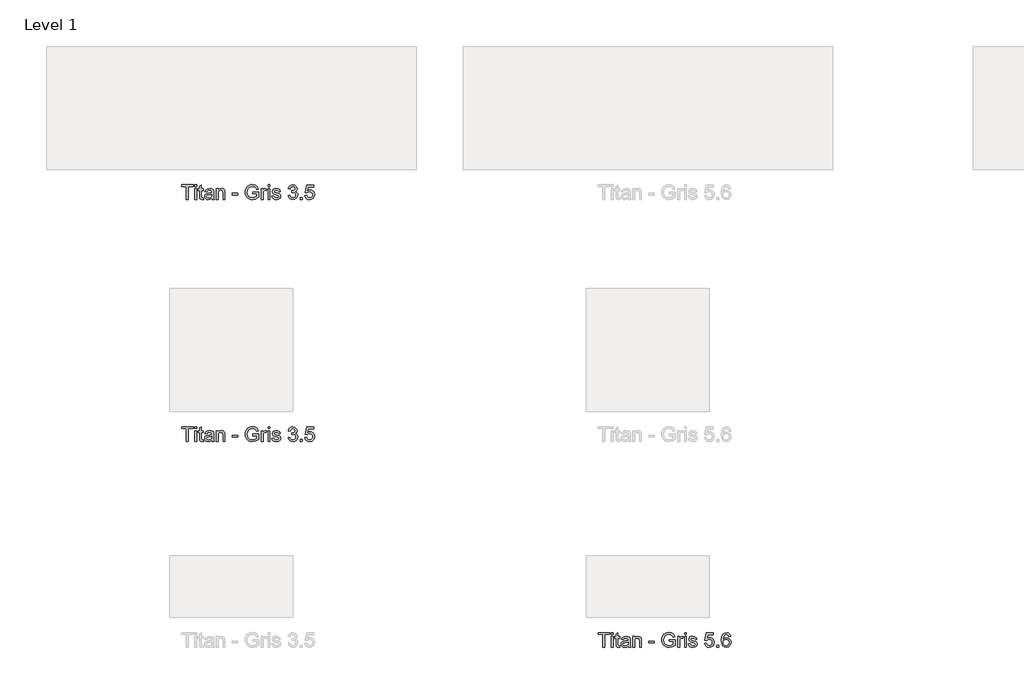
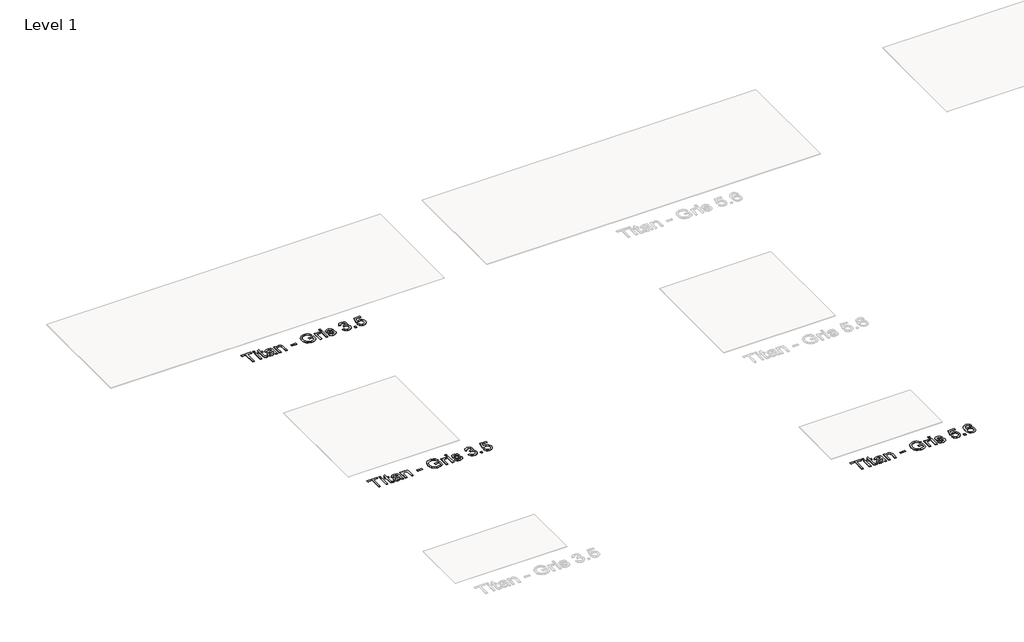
# One storey, part 3 of 80: 3 proxies.
"""IFC4 building model written with IfcOpenShell, lengths in millimetres."""

from ifc_helpers import new_model, si_unit, origin, origin_with_axes, place, context, project, spatial, polyline, outline, extrude, element, save

model = new_model("IFC4")

# Units and contexts
model_context = context("Model", 3, world=origin())
ifc_project = project(units=[si_unit("LENGTHUNIT", "METRE", prefix="MILLI")], contexts=[model_context])

# Site, building, storey
site = spatial("IfcSite", under=ifc_project)
building = spatial("IfcBuilding", under=site)
storey = spatial("IfcBuildingStorey", under=building, Name="Level 1", Elevation=0.0)

# Proxies
placement = place(None, origin())
element("IfcBuildingElementProxy", 1, Name="24\" Arial", ObjectType="24\" Arial", at=placement, inside=storey, context=model_context, shape_type="SweptSolid", body=[
    extrude(outline(polyline([(-23010.153031, -20307.8922787), (-23010.153031, -20204.5076633), (-23048.9222617, -20204.5076633), (-23048.9222617, -20189.7384325), (-22956.6145694, -20189.7384325), (-22956.6145694, -20204.5076633), (-22995.3838002, -20204.5076633), (-22995.3838002, -20307.8922787), (-23010.153031, -20307.8922787)])), origin_with_axes(), (0.0, 0.0, 1.0), 2.0),
    extrude(outline(polyline([(-22941.8453387, -20307.8922787), (-22941.8453387, -20221.1230479), (-22927.0761079, -20221.1230479), (-22927.0761079, -20307.8922787), (-22941.8453387, -20307.8922787)])), origin_with_axes(), (0.0, 0.0, 1.0), 2.0),
    extrude(outline(polyline([(-22941.8453387, -20204.5076633), (-22941.8453387, -20189.7384325), (-22927.0761079, -20189.7384325), (-22927.0761079, -20204.5076633), (-22941.8453387, -20204.5076633)])), origin_with_axes(), (0.0, 0.0, 1.0), 2.0),
    extrude(outline(polyline([(-22873.5376464, -20295.574971), (-22871.6914925, -20308.324971), (-22882.7395694, -20309.7384325), (-22895.1145694, -20307.2865094), (-22901.2876464, -20300.8538171), (-22903.0761079, -20284.0942017), (-22903.0761079, -20235.8922787), (-22914.153031, -20235.8922787), (-22914.153031, -20221.1230479), (-22903.0761079, -20221.1230479), (-22903.0761079, -20200.0365094), (-22888.3068771, -20191.3538171), (-22888.3068771, -20221.1230479), (-22873.5376464, -20221.1230479), (-22873.5376464, -20235.8922787), (-22888.3068771, -20235.8922787), (-22888.3068771, -20283.6615094), (-22887.528031, -20291.276894), (-22885.0039925, -20293.9740094), (-22879.9703387, -20294.9692017), (-22873.5376464, -20295.574971)])), origin_with_axes(), (0.0, 0.0, 1.0), 2.0),
    extrude(outline(polyline([(-22803.3838002, -20296.8153556), (-22817.7059156, -20306.824971), (-22833.528031, -20309.7384325), (-22845.8705791, -20307.9860287), (-22854.9751464, -20302.7288171), (-22860.5893291, -20294.745644), (-22862.4607233, -20284.8153556), (-22859.6338002, -20273.1326633), (-22852.2059156, -20264.651894), (-22841.8645694, -20259.8057402), (-22829.0857233, -20257.5845863), (-22803.4703387, -20252.5076633), (-22803.3838002, -20249.2192017), (-22807.4511079, -20238.3153556), (-22823.778031, -20234.0461248), (-22838.7203387, -20236.887471), (-22845.8453387, -20246.9692017), (-22860.6145694, -20245.1230479), (-22854.2251464, -20230.699971), (-22841.3597617, -20222.2480479), (-22821.8741848, -20219.276894), (-22803.9751464, -20221.901894), (-22793.8645694, -20228.4932402), (-22789.3357233, -20238.5172787), (-22788.6145694, -20251.4403556), (-22788.6145694, -20269.8153556), (-22787.8645694, -20295.4740094), (-22784.9222617, -20307.8922787), (-22799.6914925, -20307.8922787), (-22803.3838002, -20296.8153556)]), holes=[polyline([(-22803.3838002, -20267.276894), (-22827.2107233, -20271.8057402), (-22839.9174541, -20274.199971), (-22845.6722617, -20278.0942017), (-22847.6914925, -20283.776894), (-22843.2924541, -20291.7672787), (-22830.3838002, -20294.9692017), (-22815.4414925, -20291.4355479), (-22805.8068771, -20282.8826633), (-22803.4703387, -20271.4595863), (-22803.3838002, -20267.276894)])]), origin_with_axes(), (0.0, 0.0, 1.0), 2.0),
    extrude(outline(polyline([(-22768.3068771, -20307.8922787), (-22768.3068771, -20221.1230479), (-22753.5376464, -20221.1230479), (-22753.5376464, -20233.2384325), (-22742.2443771, -20222.7672787), (-22726.8261079, -20219.276894), (-22712.8789925, -20222.089394), (-22703.3597617, -20229.4740094), (-22698.9318771, -20240.3345863), (-22698.153031, -20254.6134325), (-22698.153031, -20307.8922787), (-22712.9222617, -20307.8922787), (-22712.9222617, -20256.6038171), (-22714.6241848, -20243.5365094), (-22720.6386079, -20236.6278556), (-22730.778031, -20234.0461248), (-22746.8020694, -20239.8442017), (-22751.8537521, -20248.245644), (-22753.5376464, -20261.8538171), (-22753.5376464, -20307.8922787), (-22768.3068771, -20307.8922787)])), origin_with_axes(), (0.0, 0.0, 1.0), 2.0),
    extrude(outline(polyline([(-22639.0761079, -20272.8153556), (-22639.0761079, -20258.0461248), (-22592.9222617, -20258.0461248), (-22592.9222617, -20272.8153556), (-22639.0761079, -20272.8153556)])), origin_with_axes(), (0.0, 0.0, 1.0), 2.0),
    extrude(outline(polyline([(-22472.9222617, -20261.7384325), (-22472.9222617, -20246.9692017), (-22424.9222617, -20246.9692017), (-22424.9222617, -20291.1326633), (-22448.6193771, -20305.0653556), (-22473.6722617, -20309.7384325), (-22490.2407714, -20307.8814613), (-22505.215531, -20302.3105479), (-22517.6554348, -20293.2204037), (-22526.6193771, -20280.8057402), (-22532.0388483, -20265.9139133), (-22533.8453387, -20249.3922787), (-22532.0460598, -20232.7516537), (-22526.6482233, -20217.2720863), (-22517.8753867, -20204.2877113), (-22505.9511079, -20195.1326633), (-22491.4270694, -20189.7023748), (-22474.8549541, -20187.8922787), (-22451.7491848, -20192.089394), (-22435.5520694, -20203.7720863), (-22426.6241848, -20223.3153556), (-22440.2395694, -20227.151894), (-22446.9751464, -20213.4932402), (-22458.4847617, -20205.6182402), (-22475.0857233, -20202.6615094), (-22493.9943771, -20205.8490094), (-22506.8597617, -20214.214394), (-22514.4607233, -20225.5942017), (-22519.0761079, -20248.7865094), (-22517.6878867, -20262.9103075), (-22513.5232233, -20274.5317017), (-22506.7083194, -20283.5677594), (-22497.3693771, -20289.9355479), (-22474.8549541, -20294.9692017), (-22454.6482233, -20291.1759325), (-22439.6914925, -20283.0845863), (-22439.6914925, -20261.7384325), (-22472.9222617, -20261.7384325)])), origin_with_axes(), (0.0, 0.0, 1.0), 2.0),
    extrude(outline(polyline([(-22402.7684156, -20307.8922787), (-22402.7684156, -20221.1230479), (-22389.8453387, -20221.1230479), (-22389.8453387, -20233.9595863), (-22380.6722617, -20222.1326633), (-22371.4414925, -20219.276894), (-22356.6145694, -20223.8345863), (-22361.5472617, -20237.074971), (-22371.9318771, -20234.0461248), (-22380.2828387, -20236.9595863), (-22385.6049541, -20245.0365094), (-22387.9991848, -20262.2865094), (-22387.9991848, -20307.8922787), (-22402.7684156, -20307.8922787)])), origin_with_axes(), (0.0, 0.0, 1.0), 2.0),
    extrude(outline(polyline([(-22347.3838002, -20307.8922787), (-22347.3838002, -20221.1230479), (-22332.6145694, -20221.1230479), (-22332.6145694, -20307.8922787), (-22347.3838002, -20307.8922787)])), origin_with_axes(), (0.0, 0.0, 1.0), 2.0),
    extrude(outline(polyline([(-22347.3838002, -20204.5076633), (-22347.3838002, -20189.7384325), (-22332.6145694, -20189.7384325), (-22332.6145694, -20204.5076633), (-22347.3838002, -20204.5076633)])), origin_with_axes(), (0.0, 0.0, 1.0), 2.0),
    extrude(outline(polyline([(-22315.9991848, -20282.0461248), (-22301.2299541, -20280.199971), (-22294.3934156, -20291.1615094), (-22278.7299541, -20294.9692017), (-22263.6722617, -20291.4788171), (-22258.7684156, -20283.2865094), (-22263.7011079, -20276.651894), (-22278.903031, -20272.4403556), (-22301.1434156, -20265.214394), (-22310.8501464, -20256.776894), (-22314.153031, -20244.8634325), (-22311.4991848, -20233.8586248), (-22304.2588002, -20225.449971), (-22294.8693771, -20221.0797787), (-22282.1626464, -20219.276894), (-22264.1914925, -20222.1759325), (-22252.7684156, -20230.0220863), (-22247.6914925, -20243.276894), (-22262.4607233, -20245.1230479), (-22268.0136079, -20236.9740094), (-22281.0088002, -20234.0461248), (-22295.1434156, -20236.8442017), (-22299.3838002, -20243.3634325), (-22297.6241848, -20247.6615094), (-22292.1145694, -20250.9211248), (-22279.3934156, -20254.0653556), (-22257.715531, -20261.0172787), (-22247.6482233, -20268.8922787), (-22243.9991848, -20281.7288171), (-22248.2828387, -20295.8634325), (-22260.6434156, -20306.1182402), (-22278.9318771, -20309.7384325), (-22293.8237041, -20307.9932402), (-22304.6914925, -20302.7576633), (-22311.9463002, -20294.089394), (-22315.9991848, -20282.0461248)])), origin_with_axes(), (0.0, 0.0, 1.0), 2.0),
    extrude(outline(polyline([(-22184.9222617, -20276.5076633), (-22170.153031, -20274.6615094), (-22162.7107233, -20289.8778556), (-22147.278031, -20294.9692017), (-22136.6914925, -20293.198769), (-22128.7588002, -20287.887471), (-22123.8044733, -20279.6482883), (-22122.153031, -20269.0942017), (-22123.699906, -20259.1567017), (-22128.340531, -20251.5557402), (-22136.1109637, -20246.731221), (-22147.0472617, -20245.1230479), (-22160.0136079, -20247.6903556), (-22168.3068771, -20254.3538171), (-22183.0761079, -20252.5076633), (-22170.153031, -20191.5845863), (-22112.9222617, -20191.5845863), (-22112.9222617, -20206.3538171), (-22158.2107233, -20206.3538171), (-22164.528031, -20238.8922787), (-22153.9775502, -20232.4884325), (-22142.9222617, -20230.3538171), (-22129.1229829, -20233.0004517), (-22117.6674541, -20240.9403556), (-22109.9547137, -20253.0413171), (-22107.3838002, -20268.1711248), (-22109.6987041, -20282.9403556), (-22116.6434156, -20295.574971), (-22129.9414925, -20306.1975671), (-22147.3357233, -20309.7384325), (-22161.8417329, -20307.4631921), (-22173.3982233, -20300.637471), (-22181.3200983, -20290.0545383), (-22184.9222617, -20276.5076633)])), origin_with_axes(), (0.0, 0.0, 1.0), 2.0),
    extrude(outline(polyline([(-22087.0761079, -20307.8922787), (-22087.0761079, -20293.1230479), (-22072.3068771, -20293.1230479), (-22072.3068771, -20307.8922787), (-22087.0761079, -20307.8922787)])), origin_with_axes(), (0.0, 0.0, 1.0), 2.0),
    extrude(outline(polyline([(-21972.6145694, -20221.1230479), (-21987.3838002, -20222.9692017), (-21992.9799541, -20210.651894), (-21999.6794733, -20206.043721), (-22007.778031, -20204.5076633), (-22021.1049541, -20208.0845863), (-22031.1866848, -20221.512471), (-22035.3838002, -20247.8345863), (-22022.3597617, -20236.0509325), (-22006.2203387, -20232.199971), (-21992.5761079, -20234.8321825), (-21981.1241848, -20242.7288171), (-21973.3573579, -20254.793721), (-21970.7684156, -20269.9307402), (-21975.6434156, -20290.3105479), (-21989.0568771, -20304.7336248), (-22008.4126464, -20309.7384325), (-22025.168656, -20306.4211248), (-22038.5136079, -20296.4692017), (-22047.2431752, -20278.901894), (-22050.153031, -20252.7384325), (-22046.9222617, -20223.3225671), (-22037.2299541, -20203.2095863), (-22023.996781, -20193.106221), (-22006.8549541, -20189.7384325), (-21993.8958194, -20191.8225671), (-21983.5184156, -20198.074971), (-21976.2491848, -20208.0052594), (-21972.6145694, -20221.1230479)]), holes=[polyline([(-22035.3838002, -20269.699971), (-22031.965531, -20282.4932402), (-22022.8789925, -20291.7817017), (-22009.5664925, -20294.9692017), (-21999.8200983, -20293.3177594), (-21992.1578387, -20288.3634325), (-21987.1926944, -20280.574971), (-21985.5376464, -20270.4211248), (-21987.1710598, -20260.6747306), (-21992.0713002, -20253.2432402), (-21999.8633675, -20248.5377113), (-22010.1722617, -20246.9692017), (-22019.9042329, -20248.5377113), (-22028.0424541, -20253.2432402), (-22033.5484637, -20260.4944421), (-22035.3838002, -20269.699971)])]), origin_with_axes(), (0.0, 0.0, 1.0), 2.0),
])
element("IfcBuildingElementProxy", 2, Name="24\" Arial", ObjectType="24\" Arial", at=placement, inside=storey, context=model_context, shape_type="SweptSolid", body=[
    extrude(outline(polyline([(-26390.153031, -16671.3584739), (-26390.153031, -16567.9738585), (-26428.9222617, -16567.9738585), (-26428.9222617, -16553.2046277), (-26336.6145694, -16553.2046277), (-26336.6145694, -16567.9738585), (-26375.3838002, -16567.9738585), (-26375.3838002, -16671.3584739), (-26390.153031, -16671.3584739)])), origin_with_axes(), (0.0, 0.0, 1.0), 2.0),
    extrude(outline(polyline([(-26321.8453387, -16671.3584739), (-26321.8453387, -16584.5892431), (-26307.0761079, -16584.5892431), (-26307.0761079, -16671.3584739), (-26321.8453387, -16671.3584739)])), origin_with_axes(), (0.0, 0.0, 1.0), 2.0),
    extrude(outline(polyline([(-26321.8453387, -16567.9738585), (-26321.8453387, -16553.2046277), (-26307.0761079, -16553.2046277), (-26307.0761079, -16567.9738585), (-26321.8453387, -16567.9738585)])), origin_with_axes(), (0.0, 0.0, 1.0), 2.0),
    extrude(outline(polyline([(-26253.5376464, -16659.0411662), (-26251.6914925, -16671.7911662), (-26262.7395694, -16673.2046277), (-26275.1145694, -16670.7527046), (-26281.2876464, -16664.3200123), (-26283.0761079, -16647.560397), (-26283.0761079, -16599.3584739), (-26294.153031, -16599.3584739), (-26294.153031, -16584.5892431), (-26283.0761079, -16584.5892431), (-26283.0761079, -16563.5027046), (-26268.3068771, -16554.8200123), (-26268.3068771, -16584.5892431), (-26253.5376464, -16584.5892431), (-26253.5376464, -16599.3584739), (-26268.3068771, -16599.3584739), (-26268.3068771, -16647.1277046), (-26267.528031, -16654.7430893), (-26265.0039925, -16657.4402046), (-26259.9703387, -16658.435397), (-26253.5376464, -16659.0411662)])), origin_with_axes(), (0.0, 0.0, 1.0), 2.0),
    extrude(outline(polyline([(-26183.3838002, -16660.2815508), (-26197.7059156, -16670.2911662), (-26213.528031, -16673.2046277), (-26225.8705791, -16671.4522239), (-26234.9751464, -16666.1950123), (-26240.5893291, -16658.2118393), (-26242.4607233, -16648.2815508), (-26239.6338002, -16636.5988585), (-26232.2059156, -16628.1180893), (-26221.8645694, -16623.2719354), (-26209.0857233, -16621.0507816), (-26183.4703387, -16615.9738585), (-26183.3838002, -16612.685397), (-26187.4511079, -16601.7815508), (-26203.778031, -16597.51232), (-26218.7203387, -16600.3536662), (-26225.8453387, -16610.435397), (-26240.6145694, -16608.5892431), (-26234.2251464, -16594.1661662), (-26221.3597617, -16585.7142431), (-26201.8741848, -16582.7430893), (-26183.9751464, -16585.3680893), (-26173.8645694, -16591.9594354), (-26169.3357233, -16601.9834739), (-26168.6145694, -16614.9065508), (-26168.6145694, -16633.2815508), (-26167.8645694, -16658.9402046), (-26164.9222617, -16671.3584739), (-26179.6914925, -16671.3584739), (-26183.3838002, -16660.2815508)]), holes=[polyline([(-26183.3838002, -16630.7430893), (-26207.2107233, -16635.2719354), (-26219.9174541, -16637.6661662), (-26225.6722617, -16641.560397), (-26227.6914925, -16647.2430893), (-26223.2924541, -16655.2334739), (-26210.3838002, -16658.435397), (-26195.4414925, -16654.9017431), (-26185.8068771, -16646.3488585), (-26183.4703387, -16634.9257816), (-26183.3838002, -16630.7430893)])]), origin_with_axes(), (0.0, 0.0, 1.0), 2.0),
    extrude(outline(polyline([(-26148.3068771, -16671.3584739), (-26148.3068771, -16584.5892431), (-26133.5376464, -16584.5892431), (-26133.5376464, -16596.7046277), (-26122.2443771, -16586.2334739), (-26106.8261079, -16582.7430893), (-26092.8789925, -16585.5555893), (-26083.3597617, -16592.9402046), (-26078.9318771, -16603.8007816), (-26078.153031, -16618.0796277), (-26078.153031, -16671.3584739), (-26092.9222617, -16671.3584739), (-26092.9222617, -16620.0700123), (-26094.6241848, -16607.0027046), (-26100.6386079, -16600.0940508), (-26110.778031, -16597.51232), (-26126.8020694, -16603.310397), (-26131.8537521, -16611.7118393), (-26133.5376464, -16625.3200123), (-26133.5376464, -16671.3584739), (-26148.3068771, -16671.3584739)])), origin_with_axes(), (0.0, 0.0, 1.0), 2.0),
    extrude(outline(polyline([(-26019.0761079, -16636.2815508), (-26019.0761079, -16621.51232), (-25972.9222617, -16621.51232), (-25972.9222617, -16636.2815508), (-26019.0761079, -16636.2815508)])), origin_with_axes(), (0.0, 0.0, 1.0), 2.0),
    extrude(outline(polyline([(-25852.9222617, -16625.2046277), (-25852.9222617, -16610.435397), (-25804.9222617, -16610.435397), (-25804.9222617, -16654.5988585), (-25828.6193771, -16668.5315508), (-25853.6722617, -16673.2046277), (-25870.2407714, -16671.3476566), (-25885.215531, -16665.7767431), (-25897.6554348, -16656.6865989), (-25906.6193771, -16644.2719354), (-25912.0388483, -16629.3801085), (-25913.8453387, -16612.8584739), (-25912.0460598, -16596.2178489), (-25906.6482233, -16580.7382816), (-25897.8753867, -16567.7539066), (-25885.9511079, -16558.5988585), (-25871.4270694, -16553.16857), (-25854.8549541, -16551.3584739), (-25831.7491848, -16555.5555893), (-25815.5520694, -16567.2382816), (-25806.6241848, -16586.7815508), (-25820.2395694, -16590.6180893), (-25826.9751464, -16576.9594354), (-25838.4847617, -16569.0844354), (-25855.0857233, -16566.1277046), (-25873.9943771, -16569.3152046), (-25886.8597617, -16577.6805893), (-25894.4607233, -16589.060397), (-25899.0761079, -16612.2527046), (-25897.6878867, -16626.3765027), (-25893.5232233, -16637.997897), (-25886.7083194, -16647.0339546), (-25877.3693771, -16653.4017431), (-25854.8549541, -16658.435397), (-25834.6482233, -16654.6421277), (-25819.6914925, -16646.5507816), (-25819.6914925, -16625.2046277), (-25852.9222617, -16625.2046277)])), origin_with_axes(), (0.0, 0.0, 1.0), 2.0),
    extrude(outline(polyline([(-25782.7684156, -16671.3584739), (-25782.7684156, -16584.5892431), (-25769.8453387, -16584.5892431), (-25769.8453387, -16597.4257816), (-25760.6722617, -16585.5988585), (-25751.4414925, -16582.7430893), (-25736.6145694, -16587.3007816), (-25741.5472617, -16600.5411662), (-25751.9318771, -16597.51232), (-25760.2828387, -16600.4257816), (-25765.6049541, -16608.5027046), (-25767.9991848, -16625.7527046), (-25767.9991848, -16671.3584739), (-25782.7684156, -16671.3584739)])), origin_with_axes(), (0.0, 0.0, 1.0), 2.0),
    extrude(outline(polyline([(-25727.3838002, -16671.3584739), (-25727.3838002, -16584.5892431), (-25712.6145694, -16584.5892431), (-25712.6145694, -16671.3584739), (-25727.3838002, -16671.3584739)])), origin_with_axes(), (0.0, 0.0, 1.0), 2.0),
    extrude(outline(polyline([(-25727.3838002, -16567.9738585), (-25727.3838002, -16553.2046277), (-25712.6145694, -16553.2046277), (-25712.6145694, -16567.9738585), (-25727.3838002, -16567.9738585)])), origin_with_axes(), (0.0, 0.0, 1.0), 2.0),
    extrude(outline(polyline([(-25695.9991848, -16645.51232), (-25681.2299541, -16643.6661662), (-25674.3934156, -16654.6277046), (-25658.7299541, -16658.435397), (-25643.6722617, -16654.9450123), (-25638.7684156, -16646.7527046), (-25643.7011079, -16640.1180893), (-25658.903031, -16635.9065508), (-25681.1434156, -16628.6805893), (-25690.8501464, -16620.2430893), (-25694.153031, -16608.3296277), (-25691.4991848, -16597.32482), (-25684.2588002, -16588.9161662), (-25674.8693771, -16584.5459739), (-25662.1626464, -16582.7430893), (-25644.1914925, -16585.6421277), (-25632.7684156, -16593.4882816), (-25627.6914925, -16606.7430893), (-25642.4607233, -16608.5892431), (-25648.0136079, -16600.4402046), (-25661.0088002, -16597.51232), (-25675.1434156, -16600.310397), (-25679.3838002, -16606.8296277), (-25677.6241848, -16611.1277046), (-25672.1145694, -16614.38732), (-25659.3934156, -16617.5315508), (-25637.715531, -16624.4834739), (-25627.6482233, -16632.3584739), (-25623.9991848, -16645.1950123), (-25628.2828387, -16659.3296277), (-25640.6434156, -16669.5844354), (-25658.9318771, -16673.2046277), (-25673.8237041, -16671.4594354), (-25684.6914925, -16666.2238585), (-25691.9463002, -16657.5555893), (-25695.9991848, -16645.51232)])), origin_with_axes(), (0.0, 0.0, 1.0), 2.0),
    extrude(outline(polyline([(-25564.9222617, -16639.9738585), (-25550.153031, -16638.1277046), (-25542.0039925, -16653.6757816), (-25526.7588002, -16658.435397), (-25516.6338002, -16656.7983777), (-25508.8164925, -16651.88732), (-25503.8188964, -16644.560397), (-25502.153031, -16635.6757816), (-25503.8044733, -16627.2418873), (-25508.7588002, -16620.4017431), (-25516.2588002, -16615.8692912), (-25525.5472617, -16614.3584739), (-25535.903031, -16615.9738585), (-25534.2588002, -16601.2046277), (-25531.8934156, -16601.3777046), (-25515.1338002, -16597.13732), (-25509.5520694, -16591.7575123), (-25507.6914925, -16584.0988585), (-25513.0857233, -16572.5459739), (-25526.9895694, -16567.9738585), (-25541.0664925, -16572.5892431), (-25548.3068771, -16586.435397), (-25563.0761079, -16584.5892431), (-25558.7275502, -16571.3272239), (-25550.9895694, -16561.4257816), (-25540.403031, -16555.2599162), (-25527.5088002, -16553.2046277), (-25509.6963002, -16557.2575123), (-25497.2347617, -16568.3344354), (-25492.9222617, -16583.2334739), (-25497.0184156, -16596.8488585), (-25509.1338002, -16606.6277046), (-25499.8886079, -16610.3632816), (-25493.0376464, -16616.7238585), (-25488.7972617, -16625.3632816), (-25487.3838002, -16635.935397), (-25490.2107233, -16650.3296277), (-25498.6914925, -16662.3584739), (-25511.4919733, -16670.4930893), (-25527.278031, -16673.2046277), (-25541.5568771, -16670.8897239), (-25553.1818771, -16663.9450123), (-25561.2660117, -16653.3224162), (-25564.9222617, -16639.9738585)])), origin_with_axes(), (0.0, 0.0, 1.0), 2.0),
    extrude(outline(polyline([(-25467.0761079, -16671.3584739), (-25467.0761079, -16656.5892431), (-25452.3068771, -16656.5892431), (-25452.3068771, -16671.3584739), (-25467.0761079, -16671.3584739)])), origin_with_axes(), (0.0, 0.0, 1.0), 2.0),
    extrude(outline(polyline([(-25428.3068771, -16639.9738585), (-25413.5376464, -16638.1277046), (-25406.0953387, -16653.3440508), (-25390.6626464, -16658.435397), (-25380.0761079, -16656.6649643), (-25372.1434156, -16651.3536662), (-25367.1890887, -16643.1144835), (-25365.5376464, -16632.560397), (-25367.0845214, -16622.622897), (-25371.7251464, -16615.0219354), (-25379.4955791, -16610.1974162), (-25390.4318771, -16608.5892431), (-25403.3982233, -16611.1565508), (-25411.6914925, -16617.8200123), (-25426.4607233, -16615.9738585), (-25413.5376464, -16555.0507816), (-25356.3068771, -16555.0507816), (-25356.3068771, -16569.8200123), (-25401.5953387, -16569.8200123), (-25407.9126464, -16602.3584739), (-25397.3621656, -16595.9546277), (-25386.3068771, -16593.8200123), (-25372.5075983, -16596.466647), (-25361.0520694, -16604.4065508), (-25353.3393291, -16616.5075123), (-25350.7684156, -16631.63732), (-25353.0833194, -16646.4065508), (-25360.028031, -16659.0411662), (-25373.3261079, -16669.6637623), (-25390.7203387, -16673.2046277), (-25405.2263483, -16670.9293873), (-25416.7828387, -16664.1036662), (-25424.7047137, -16653.5207335), (-25428.3068771, -16639.9738585)])), origin_with_axes(), (0.0, 0.0, 1.0), 2.0),
])
element("IfcBuildingElementProxy", 3, Name="24\" Arial", ObjectType="24\" Arial", at=placement, inside=storey, context=model_context, shape_type="SweptSolid", body=[
    extrude(outline(polyline([(-26390.153031, -18636.6855167), (-26390.153031, -18533.3009013), (-26428.9222617, -18533.3009013), (-26428.9222617, -18518.5316705), (-26336.6145694, -18518.5316705), (-26336.6145694, -18533.3009013), (-26375.3838002, -18533.3009013), (-26375.3838002, -18636.6855167), (-26390.153031, -18636.6855167)])), origin_with_axes(), (0.0, 0.0, 1.0), 2.0),
    extrude(outline(polyline([(-26321.8453387, -18636.6855167), (-26321.8453387, -18549.9162859), (-26307.0761079, -18549.9162859), (-26307.0761079, -18636.6855167), (-26321.8453387, -18636.6855167)])), origin_with_axes(), (0.0, 0.0, 1.0), 2.0),
    extrude(outline(polyline([(-26321.8453387, -18533.3009013), (-26321.8453387, -18518.5316705), (-26307.0761079, -18518.5316705), (-26307.0761079, -18533.3009013), (-26321.8453387, -18533.3009013)])), origin_with_axes(), (0.0, 0.0, 1.0), 2.0),
    extrude(outline(polyline([(-26253.5376464, -18624.368209), (-26251.6914925, -18637.118209), (-26262.7395694, -18638.5316705), (-26275.1145694, -18636.0797474), (-26281.2876464, -18629.6470551), (-26283.0761079, -18612.8874398), (-26283.0761079, -18564.6855167), (-26294.153031, -18564.6855167), (-26294.153031, -18549.9162859), (-26283.0761079, -18549.9162859), (-26283.0761079, -18528.8297474), (-26268.3068771, -18520.1470551), (-26268.3068771, -18549.9162859), (-26253.5376464, -18549.9162859), (-26253.5376464, -18564.6855167), (-26268.3068771, -18564.6855167), (-26268.3068771, -18612.4547474), (-26267.528031, -18620.0701321), (-26265.0039925, -18622.7672474), (-26259.9703387, -18623.7624398), (-26253.5376464, -18624.368209)])), origin_with_axes(), (0.0, 0.0, 1.0), 2.0),
    extrude(outline(polyline([(-26183.3838002, -18625.6085936), (-26197.7059156, -18635.618209), (-26213.528031, -18638.5316705), (-26225.8705791, -18636.7792667), (-26234.9751464, -18631.5220551), (-26240.5893291, -18623.5388821), (-26242.4607233, -18613.6085936), (-26239.6338002, -18601.9259013), (-26232.2059156, -18593.4451321), (-26221.8645694, -18588.5989782), (-26209.0857233, -18586.3778244), (-26183.4703387, -18581.3009013), (-26183.3838002, -18578.0124398), (-26187.4511079, -18567.1085936), (-26203.778031, -18562.8393628), (-26218.7203387, -18565.680709), (-26225.8453387, -18575.7624398), (-26240.6145694, -18573.9162859), (-26234.2251464, -18559.493209), (-26221.3597617, -18551.0412859), (-26201.8741848, -18548.0701321), (-26183.9751464, -18550.6951321), (-26173.8645694, -18557.2864782), (-26169.3357233, -18567.3105167), (-26168.6145694, -18580.2335936), (-26168.6145694, -18598.6085936), (-26167.8645694, -18624.2672474), (-26164.9222617, -18636.6855167), (-26179.6914925, -18636.6855167), (-26183.3838002, -18625.6085936)]), holes=[polyline([(-26183.3838002, -18596.0701321), (-26207.2107233, -18600.5989782), (-26219.9174541, -18602.993209), (-26225.6722617, -18606.8874398), (-26227.6914925, -18612.5701321), (-26223.2924541, -18620.5605167), (-26210.3838002, -18623.7624398), (-26195.4414925, -18620.2287859), (-26185.8068771, -18611.6759013), (-26183.4703387, -18600.2528244), (-26183.3838002, -18596.0701321)])]), origin_with_axes(), (0.0, 0.0, 1.0), 2.0),
    extrude(outline(polyline([(-26148.3068771, -18636.6855167), (-26148.3068771, -18549.9162859), (-26133.5376464, -18549.9162859), (-26133.5376464, -18562.0316705), (-26122.2443771, -18551.5605167), (-26106.8261079, -18548.0701321), (-26092.8789925, -18550.8826321), (-26083.3597617, -18558.2672474), (-26078.9318771, -18569.1278244), (-26078.153031, -18583.4066705), (-26078.153031, -18636.6855167), (-26092.9222617, -18636.6855167), (-26092.9222617, -18585.3970551), (-26094.6241848, -18572.3297474), (-26100.6386079, -18565.4210936), (-26110.778031, -18562.8393628), (-26126.8020694, -18568.6374398), (-26131.8537521, -18577.0388821), (-26133.5376464, -18590.6470551), (-26133.5376464, -18636.6855167), (-26148.3068771, -18636.6855167)])), origin_with_axes(), (0.0, 0.0, 1.0), 2.0),
    extrude(outline(polyline([(-26019.0761079, -18601.6085936), (-26019.0761079, -18586.8393628), (-25972.9222617, -18586.8393628), (-25972.9222617, -18601.6085936), (-26019.0761079, -18601.6085936)])), origin_with_axes(), (0.0, 0.0, 1.0), 2.0),
    extrude(outline(polyline([(-25852.9222617, -18590.5316705), (-25852.9222617, -18575.7624398), (-25804.9222617, -18575.7624398), (-25804.9222617, -18619.9259013), (-25828.6193771, -18633.8585936), (-25853.6722617, -18638.5316705), (-25870.2407714, -18636.6746994), (-25885.215531, -18631.1037859), (-25897.6554348, -18622.0136417), (-25906.6193771, -18609.5989782), (-25912.0388483, -18594.7071513), (-25913.8453387, -18578.1855167), (-25912.0460598, -18561.5448917), (-25906.6482233, -18546.0653244), (-25897.8753867, -18533.0809494), (-25885.9511079, -18523.9259013), (-25871.4270694, -18518.4956128), (-25854.8549541, -18516.6855167), (-25831.7491848, -18520.8826321), (-25815.5520694, -18532.5653244), (-25806.6241848, -18552.1085936), (-25820.2395694, -18555.9451321), (-25826.9751464, -18542.2864782), (-25838.4847617, -18534.4114782), (-25855.0857233, -18531.4547474), (-25873.9943771, -18534.6422474), (-25886.8597617, -18543.0076321), (-25894.4607233, -18554.3874398), (-25899.0761079, -18577.5797474), (-25897.6878867, -18591.7035455), (-25893.5232233, -18603.3249398), (-25886.7083194, -18612.3609974), (-25877.3693771, -18618.7287859), (-25854.8549541, -18623.7624398), (-25834.6482233, -18619.9691705), (-25819.6914925, -18611.8778244), (-25819.6914925, -18590.5316705), (-25852.9222617, -18590.5316705)])), origin_with_axes(), (0.0, 0.0, 1.0), 2.0),
    extrude(outline(polyline([(-25782.7684156, -18636.6855167), (-25782.7684156, -18549.9162859), (-25769.8453387, -18549.9162859), (-25769.8453387, -18562.7528244), (-25760.6722617, -18550.9259013), (-25751.4414925, -18548.0701321), (-25736.6145694, -18552.6278244), (-25741.5472617, -18565.868209), (-25751.9318771, -18562.8393628), (-25760.2828387, -18565.7528244), (-25765.6049541, -18573.8297474), (-25767.9991848, -18591.0797474), (-25767.9991848, -18636.6855167), (-25782.7684156, -18636.6855167)])), origin_with_axes(), (0.0, 0.0, 1.0), 2.0),
    extrude(outline(polyline([(-25727.3838002, -18636.6855167), (-25727.3838002, -18549.9162859), (-25712.6145694, -18549.9162859), (-25712.6145694, -18636.6855167), (-25727.3838002, -18636.6855167)])), origin_with_axes(), (0.0, 0.0, 1.0), 2.0),
    extrude(outline(polyline([(-25727.3838002, -18533.3009013), (-25727.3838002, -18518.5316705), (-25712.6145694, -18518.5316705), (-25712.6145694, -18533.3009013), (-25727.3838002, -18533.3009013)])), origin_with_axes(), (0.0, 0.0, 1.0), 2.0),
    extrude(outline(polyline([(-25695.9991848, -18610.8393628), (-25681.2299541, -18608.993209), (-25674.3934156, -18619.9547474), (-25658.7299541, -18623.7624398), (-25643.6722617, -18620.2720551), (-25638.7684156, -18612.0797474), (-25643.7011079, -18605.4451321), (-25658.903031, -18601.2335936), (-25681.1434156, -18594.0076321), (-25690.8501464, -18585.5701321), (-25694.153031, -18573.6566705), (-25691.4991848, -18562.6518628), (-25684.2588002, -18554.243209), (-25674.8693771, -18549.8730167), (-25662.1626464, -18548.0701321), (-25644.1914925, -18550.9691705), (-25632.7684156, -18558.8153244), (-25627.6914925, -18572.0701321), (-25642.4607233, -18573.9162859), (-25648.0136079, -18565.7672474), (-25661.0088002, -18562.8393628), (-25675.1434156, -18565.6374398), (-25679.3838002, -18572.1566705), (-25677.6241848, -18576.4547474), (-25672.1145694, -18579.7143628), (-25659.3934156, -18582.8585936), (-25637.715531, -18589.8105167), (-25627.6482233, -18597.6855167), (-25623.9991848, -18610.5220551), (-25628.2828387, -18624.6566705), (-25640.6434156, -18634.9114782), (-25658.9318771, -18638.5316705), (-25673.8237041, -18636.7864782), (-25684.6914925, -18631.5509013), (-25691.9463002, -18622.8826321), (-25695.9991848, -18610.8393628)])), origin_with_axes(), (0.0, 0.0, 1.0), 2.0),
    extrude(outline(polyline([(-25564.9222617, -18605.3009013), (-25550.153031, -18603.4547474), (-25542.0039925, -18619.0028244), (-25526.7588002, -18623.7624398), (-25516.6338002, -18622.1254205), (-25508.8164925, -18617.2143628), (-25503.8188964, -18609.8874398), (-25502.153031, -18601.0028244), (-25503.8044733, -18592.5689301), (-25508.7588002, -18585.7287859), (-25516.2588002, -18581.196334), (-25525.5472617, -18579.6855167), (-25535.903031, -18581.3009013), (-25534.2588002, -18566.5316705), (-25531.8934156, -18566.7047474), (-25515.1338002, -18562.4643628), (-25509.5520694, -18557.0845551), (-25507.6914925, -18549.4259013), (-25513.0857233, -18537.8730167), (-25526.9895694, -18533.3009013), (-25541.0664925, -18537.9162859), (-25548.3068771, -18551.7624398), (-25563.0761079, -18549.9162859), (-25558.7275502, -18536.6542667), (-25550.9895694, -18526.7528244), (-25540.403031, -18520.586959), (-25527.5088002, -18518.5316705), (-25509.6963002, -18522.5845551), (-25497.2347617, -18533.6614782), (-25492.9222617, -18548.5605167), (-25497.0184156, -18562.1759013), (-25509.1338002, -18571.9547474), (-25499.8886079, -18575.6903244), (-25493.0376464, -18582.0509013), (-25488.7972617, -18590.6903244), (-25487.3838002, -18601.2624398), (-25490.2107233, -18615.6566705), (-25498.6914925, -18627.6855167), (-25511.4919733, -18635.8201321), (-25527.278031, -18638.5316705), (-25541.5568771, -18636.2167667), (-25553.1818771, -18629.2720551), (-25561.2660117, -18618.649459), (-25564.9222617, -18605.3009013)])), origin_with_axes(), (0.0, 0.0, 1.0), 2.0),
    extrude(outline(polyline([(-25467.0761079, -18636.6855167), (-25467.0761079, -18621.9162859), (-25452.3068771, -18621.9162859), (-25452.3068771, -18636.6855167), (-25467.0761079, -18636.6855167)])), origin_with_axes(), (0.0, 0.0, 1.0), 2.0),
    extrude(outline(polyline([(-25428.3068771, -18605.3009013), (-25413.5376464, -18603.4547474), (-25406.0953387, -18618.6710936), (-25390.6626464, -18623.7624398), (-25380.0761079, -18621.9920071), (-25372.1434156, -18616.680709), (-25367.1890887, -18608.4415263), (-25365.5376464, -18597.8874398), (-25367.0845214, -18587.9499398), (-25371.7251464, -18580.3489782), (-25379.4955791, -18575.524459), (-25390.4318771, -18573.9162859), (-25403.3982233, -18576.4835936), (-25411.6914925, -18583.1470551), (-25426.4607233, -18581.3009013), (-25413.5376464, -18520.3778244), (-25356.3068771, -18520.3778244), (-25356.3068771, -18535.1470551), (-25401.5953387, -18535.1470551), (-25407.9126464, -18567.6855167), (-25397.3621656, -18561.2816705), (-25386.3068771, -18559.1470551), (-25372.5075983, -18561.7936898), (-25361.0520694, -18569.7335936), (-25353.3393291, -18581.8345551), (-25350.7684156, -18596.9643628), (-25353.0833194, -18611.7335936), (-25360.028031, -18624.368209), (-25373.3261079, -18634.9908051), (-25390.7203387, -18638.5316705), (-25405.2263483, -18636.2564301), (-25416.7828387, -18629.430709), (-25424.7047137, -18618.8477763), (-25428.3068771, -18605.3009013)])), origin_with_axes(), (0.0, 0.0, 1.0), 2.0),
])

save(model, "model.ifc")
